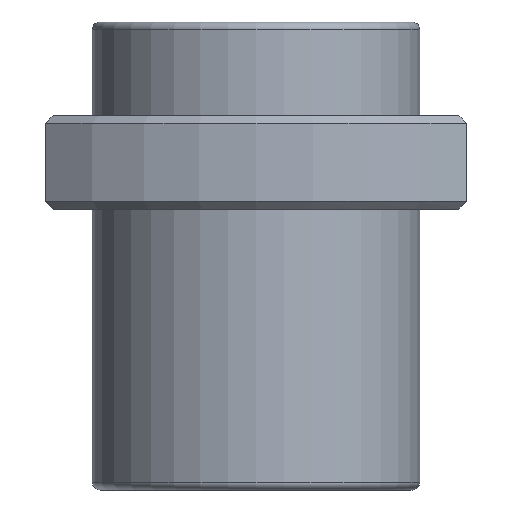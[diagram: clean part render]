
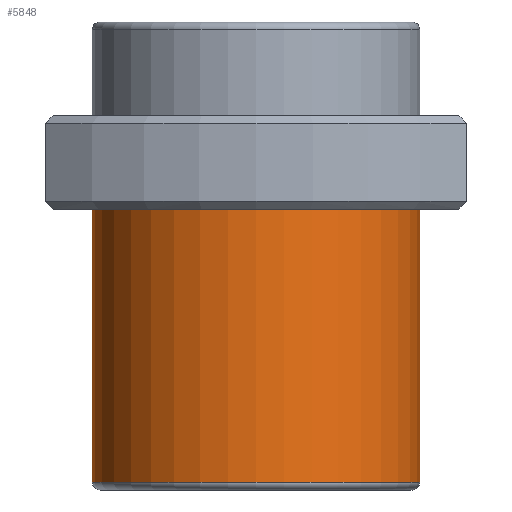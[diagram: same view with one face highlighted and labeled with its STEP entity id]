
A CAD part, front view. The second image highlights one B-rep face of the part: STEP entity #5848.
In plain terms, the highlighted cylindrical face has radius 10.5 mm (diameter 21 mm), a full revolution.
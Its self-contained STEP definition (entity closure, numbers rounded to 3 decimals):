
#92=CYLINDRICAL_SURFACE('',#6225,10.5);
#122=CIRCLE('',#6226,10.5);
#123=CIRCLE('',#6227,10.5);
#1772=ORIENTED_EDGE('',*,*,#3464,.T.);
#1773=ORIENTED_EDGE('',*,*,#3465,.T.);
#3464=EDGE_CURVE('',#4309,#4309,#122,.T.);
#3465=EDGE_CURVE('',#4310,#4310,#123,.F.);
#4309=VERTEX_POINT('',#9273);
#4310=VERTEX_POINT('',#9275);
#4792=EDGE_LOOP('',(#1772));
#4793=EDGE_LOOP('',(#1773));
#5211=FACE_BOUND('',#4792,.T.);
#5212=FACE_BOUND('',#4793,.T.);
#5848=ADVANCED_FACE('',(#5211,#5212),#92,.T.);
#6225=AXIS2_PLACEMENT_3D('',#9271,#6771,#6772);
#6226=AXIS2_PLACEMENT_3D('',#9272,#6773,#6774);
#6227=AXIS2_PLACEMENT_3D('',#9274,#6775,#6776);
#6771=DIRECTION('',(0.,0.,1.));
#6772=DIRECTION('',(1.,0.,0.));
#6773=DIRECTION('',(0.,0.,1.));
#6774=DIRECTION('',(1.,0.,0.));
#6775=DIRECTION('',(0.,0.,1.));
#6776=DIRECTION('',(1.,0.,0.));
#9271=CARTESIAN_POINT('',(0.,0.,-24.));
#9272=CARTESIAN_POINT('',(0.,0.,-23.5));
#9273=CARTESIAN_POINT('',(10.5,0.,-23.5));
#9274=CARTESIAN_POINT('',(0.,0.,-6.));
#9275=CARTESIAN_POINT('',(10.5,0.,-6.));
